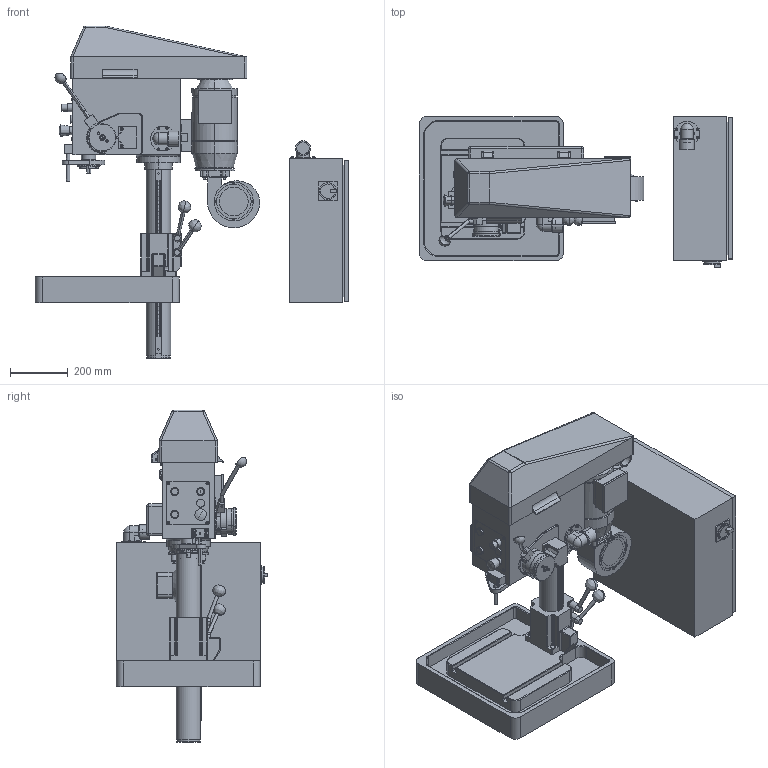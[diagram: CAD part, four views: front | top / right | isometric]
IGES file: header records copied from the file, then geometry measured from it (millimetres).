
Global section: file name: No Iges File Name specified; native system: AutoDesk Inventor R12.0; preprocessor: AutoDesk Inventor Iges Exporter R12.0; date: 20100308.164204; units: millimetre
Bounding box: 1087.23 x 525 x 1152 mm (x, y, z)
Volume: 120602346.8 mm3; surface area: 3561017.2 mm2
Topology: 49 solids, 49 shells, 2671 faces, 7027 edges, 4503 vertices
Faces by surface type: plane 1223, cylinder 500, revolution 358, bspline 356, cone 116, torus 92, sphere 26
